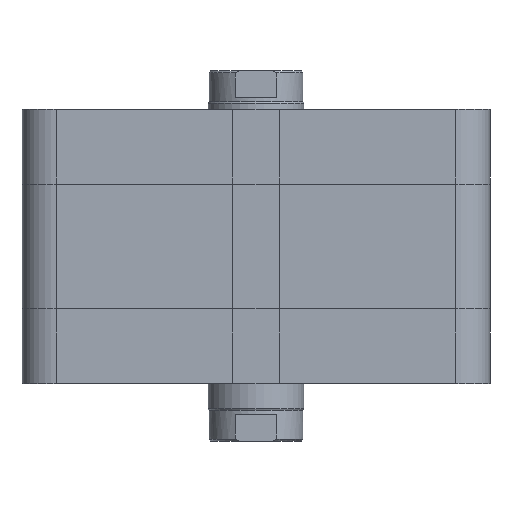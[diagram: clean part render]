
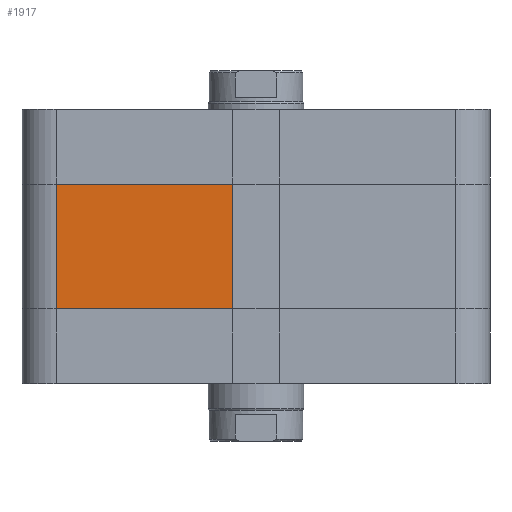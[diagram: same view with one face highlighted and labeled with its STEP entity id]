
A CAD part, front view. The second image highlights one B-rep face of the part: STEP entity #1917.
In plain terms, the highlighted planar face has unit normal (0, -1, 0).
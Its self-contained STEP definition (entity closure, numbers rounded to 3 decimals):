
#1828=CARTESIAN_POINT('',(-52.0,-61.,19.5));
#1829=VERTEX_POINT('',#1828);
#1837=CARTESIAN_POINT('',(-52.0,-61.,52.));
#1838=VERTEX_POINT('',#1837);
#1839=CARTESIAN_POINT('',(-52.0,-61.,19.5));
#1840=DIRECTION('',(0.0,0.0,1.0));
#1841=VECTOR('',#1840,32.5);
#1842=LINE('',#1839,#1841);
#1843=EDGE_CURVE('',#1829,#1838,#1842,.T.);
#1887=CARTESIAN_POINT('',(-6.,-61.,0.0));
#1888=DIRECTION('',(0.0,-1.0,0.0));
#1889=DIRECTION('',(0.0,0.0,-1.0));
#1890=AXIS2_PLACEMENT_3D('',#1887,#1888,#1889);
#1891=PLANE('',#1890);
#1892=CARTESIAN_POINT('',(-6.,-61.,19.5));
#1893=VERTEX_POINT('',#1892);
#1894=CARTESIAN_POINT('',(-52.0,-61.,19.5));
#1895=DIRECTION('',(1.0,0.0,0.0));
#1896=VECTOR('',#1895,46.0);
#1897=LINE('',#1894,#1896);
#1898=EDGE_CURVE('',#1829,#1893,#1897,.T.);
#1899=ORIENTED_EDGE('',*,*,#1898,.T.);
#1900=CARTESIAN_POINT('',(-6.,-61.,52.));
#1901=VERTEX_POINT('',#1900);
#1902=CARTESIAN_POINT('',(-6.,-61.,19.5));
#1903=DIRECTION('',(0.0,0.0,1.0));
#1904=VECTOR('',#1903,32.5);
#1905=LINE('',#1902,#1904);
#1906=EDGE_CURVE('',#1893,#1901,#1905,.T.);
#1907=ORIENTED_EDGE('',*,*,#1906,.T.);
#1908=CARTESIAN_POINT('',(-52.0,-61.,52.));
#1909=DIRECTION('',(1.0,0.0,0.0));
#1910=VECTOR('',#1909,46.0);
#1911=LINE('',#1908,#1910);
#1912=EDGE_CURVE('',#1838,#1901,#1911,.T.);
#1913=ORIENTED_EDGE('',*,*,#1912,.F.);
#1914=ORIENTED_EDGE('',*,*,#1843,.F.);
#1915=EDGE_LOOP('',(#1899,#1907,#1913,#1914));
#1916=FACE_OUTER_BOUND('',#1915,.T.);
#1917=ADVANCED_FACE('',(#1916),#1891,.T.);
